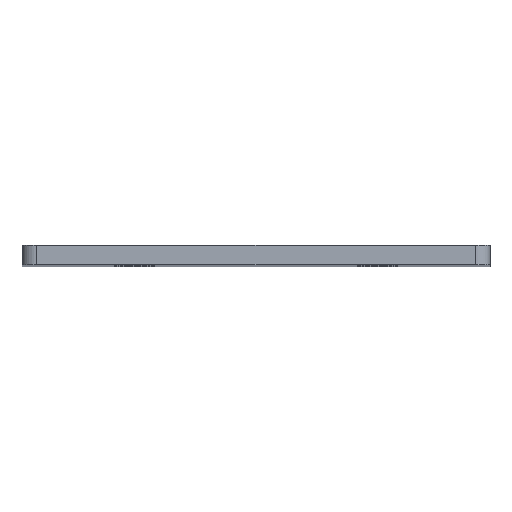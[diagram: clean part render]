
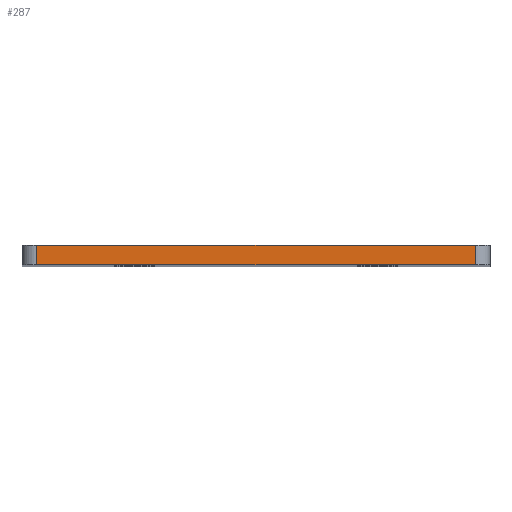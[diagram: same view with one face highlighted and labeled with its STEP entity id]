
A CAD part, top view. The second image highlights one B-rep face of the part: STEP entity #287.
In plain terms, the highlighted planar face has unit normal (0, 0, 1).
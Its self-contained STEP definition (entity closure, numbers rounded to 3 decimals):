
#3 = CARTESIAN_POINT ( 'NONE',  ( -45., 0., 173. ) ) ;
#21 = CARTESIAN_POINT ( 'NONE',  ( 45., 0., 173. ) ) ;
#58 = ORIENTED_EDGE ( 'NONE', *, *, #428, .T. ) ;
#74 = CARTESIAN_POINT ( 'NONE',  ( -48., 4., 173. ) ) ;
#79 = DIRECTION ( 'NONE',  ( 1., 0., 0. ) ) ;
#93 = CARTESIAN_POINT ( 'NONE',  ( -48., 0., 173. ) ) ;
#132 = VERTEX_POINT ( 'NONE', #3 ) ;
#136 = LINE ( 'NONE', #74, #917 ) ;
#203 = VECTOR ( 'NONE', #411, 1000. ) ;
#240 = DIRECTION ( 'NONE',  ( 0., 0., 1. ) ) ;
#248 = CARTESIAN_POINT ( 'NONE',  ( -45., 4., 173. ) ) ;
#269 = VERTEX_POINT ( 'NONE', #21 ) ;
#287 = ADVANCED_FACE ( 'NONE', ( #816 ), #818, .T. ) ;
#295 = EDGE_LOOP ( 'NONE', ( #296, #880, #354, #58 ) ) ;
#296 = ORIENTED_EDGE ( 'NONE', *, *, #534, .T. ) ;
#315 = DIRECTION ( 'NONE',  ( 1., 0., 0. ) ) ;
#338 = LINE ( 'NONE', #593, #851 ) ;
#343 = EDGE_CURVE ( 'NONE', #269, #948, #699, .T. ) ;
#354 = ORIENTED_EDGE ( 'NONE', *, *, #569, .F. ) ;
#398 = VERTEX_POINT ( 'NONE', #248 ) ;
#411 = DIRECTION ( 'NONE',  ( 0., 1., 0. ) ) ;
#428 = EDGE_CURVE ( 'NONE', #398, #132, #821, .T. ) ;
#491 = CARTESIAN_POINT ( 'NONE',  ( 45., 4., 173. ) ) ;
#514 = DIRECTION ( 'NONE',  ( 1., 0., 0. ) ) ;
#534 = EDGE_CURVE ( 'NONE', #132, #269, #338, .T. ) ;
#569 = EDGE_CURVE ( 'NONE', #398, #948, #136, .T. ) ;
#593 = CARTESIAN_POINT ( 'NONE',  ( -48., 0., 173. ) ) ;
#674 = AXIS2_PLACEMENT_3D ( 'NONE', #93, #240, #315 ) ;
#695 = CARTESIAN_POINT ( 'NONE',  ( 45., 0., 173. ) ) ;
#699 = LINE ( 'NONE', #695, #203 ) ;
#704 = CARTESIAN_POINT ( 'NONE',  ( -45., 0., 173. ) ) ;
#768 = DIRECTION ( 'NONE',  ( 0., -1., 0. ) ) ;
#816 = FACE_OUTER_BOUND ( 'NONE', #295, .T. ) ;
#818 = PLANE ( 'NONE',  #674 ) ;
#821 = LINE ( 'NONE', #704, #862 ) ;
#851 = VECTOR ( 'NONE', #514, 1000. ) ;
#862 = VECTOR ( 'NONE', #768, 1000. ) ;
#880 = ORIENTED_EDGE ( 'NONE', *, *, #343, .T. ) ;
#917 = VECTOR ( 'NONE', #79, 1000. ) ;
#948 = VERTEX_POINT ( 'NONE', #491 ) ;
